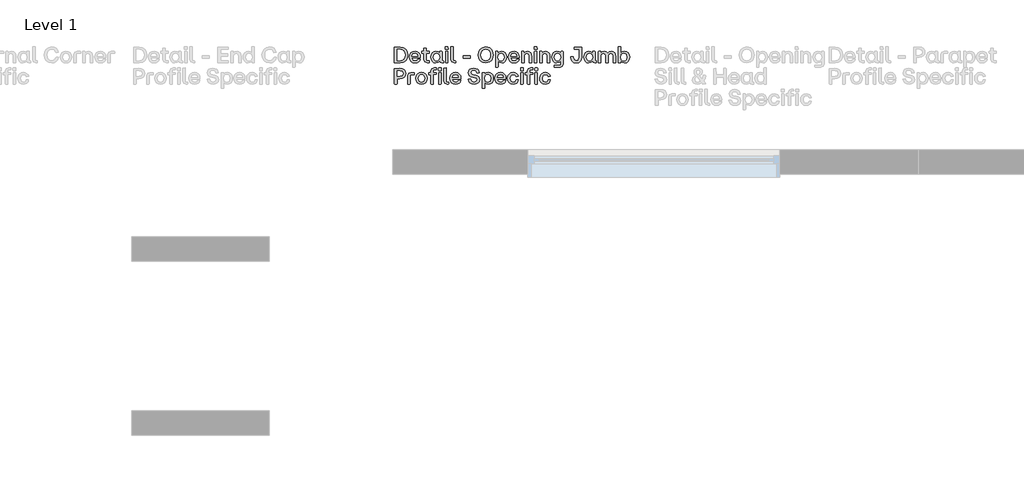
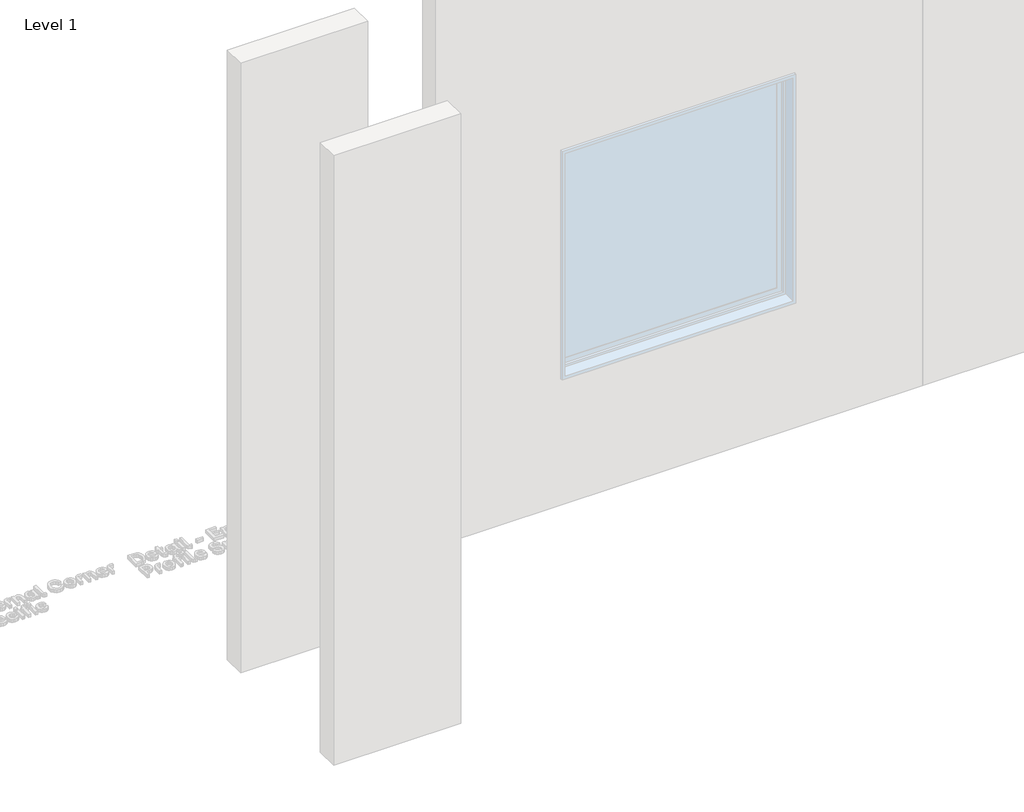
# One storey, part 37 of 64: 1 proxy.
"""IFC4 building model written with IfcOpenShell, lengths in millimetres."""

from ifc_helpers import new_model, si_unit, origin, origin_with_axes, place, context, project, spatial, polyline, outline, extrude, element, save

model = new_model("IFC4")

# Units and contexts
model_context = context("Model", 3, world=origin())
ifc_project = project(units=[si_unit("LENGTHUNIT", "METRE", prefix="MILLI")], contexts=[model_context])

# Site, building, storey
site = spatial("IfcSite", under=ifc_project)
building = spatial("IfcBuilding", under=site)
storey = spatial("IfcBuildingStorey", under=building, Name="Level 1", Elevation=0.0)

# Proxy
placement = place(None, origin())
element("IfcBuildingElementProxy", 1, Name="90mm", ObjectType="90mm", at=placement, inside=storey, context=model_context, shape_type="SweptSolid", body=[
    extrude(outline(polyline([(13610.2926176, -6500.0), (13608.9872124, -6498.7448027), (13608.9872124, -6411.3077612), (13642.5511873, -6410.002356), (13660.5475781, -6413.0054155), (13674.1193986, -6422.0145938), (13682.63905, -6436.3583606), (13685.4789338, -6455.3651852), (13682.648464, -6474.2025582), (13674.1570545, -6488.2890095), (13660.594648, -6497.0722524), (13642.5511873, -6500.0), (13610.2926176, -6500.0)]), holes=[polyline([(13623.7985402, -6487.3727155), (13641.6725492, -6487.3727155), (13653.8950326, -6485.311054), (13662.9481429, -6479.1260695), (13668.5494607, -6469.0625254), (13670.4165666, -6455.3651852), (13668.5431847, -6441.5109454), (13662.923039, -6431.1775339), (13653.8636527, -6424.7477859), (13641.6725492, -6422.6045366), (13623.7985402, -6422.6045366), (13623.7985402, -6487.3727155)])]), origin_with_axes(), (0.0, 0.0, 1.0), 20.0),
    extrude(outline(polyline([(13727.628458, -6500.7531184), (13714.0409476, -6498.4843493), (13703.5035666, -6491.6780421), (13696.7443293, -6481.0622112), (13694.4912502, -6467.3648711), (13696.7349153, -6453.5012173), (13703.4659107, -6442.7881086), (13713.9938777, -6435.9347315), (13727.628458, -6433.6502725), (13740.1584647, -6435.9033516), (13749.7324819, -6442.6625889), (13755.8044987, -6453.3129377), (13757.8285043, -6467.2393514), (13757.8285043, -6470.6785919), (13756.573307, -6472.009101), (13709.1268503, -6472.009101), (13714.6497183, -6484.6865934), (13727.628458, -6489.2053035), (13738.0465953, -6486.9082925), (13743.4439436, -6480.4691305), (13744.8246606, -6479.4147648), (13756.1967478, -6479.4147648), (13754.1633282, -6488.7314665), (13747.8120301, -6495.1925945), (13738.8248176, -6499.3629874), (13727.628458, -6500.7531184)]), holes=[polyline([(13709.2523701, -6461.5909637), (13743.8205028, -6461.5909637), (13739.0633051, -6449.6289337), (13727.628458, -6445.2733992), (13714.8631018, -6449.4155502), (13709.2523701, -6461.5909637)])]), origin_with_axes(), (0.0, 0.0, 1.0), 20.0),
    extrude(outline(polyline([(13796.6140998, -6500.0), (13782.731618, -6495.2302504), (13777.9618684, -6481.3477686), (13777.9618684, -6445.7754781), (13766.7906127, -6445.7754781), (13765.4852076, -6435.7339), (13766.7906127, -6434.4787027), (13777.9618684, -6434.4787027), (13777.9618684, -6416.45407), (13779.2170657, -6415.1486648), (13790.9657121, -6415.1486648), (13792.2209094, -6416.45407), (13792.2209094, -6434.4787027), (13808.0363949, -6434.4787027), (13809.3418001, -6435.7339), (13809.3418001, -6444.444969), (13792.2209094, -6445.7754781), (13792.2209094, -6488.7032246), (13808.0363949, -6488.7032246), (13809.3418001, -6489.9584219), (13809.3418001, -6498.7448027), (13808.0363949, -6500.0), (13796.6140998, -6500.0)])), origin_with_axes(), (0.0, 0.0, 1.0), 20.0),
    extrude(outline(polyline([(13847.2738615, -6500.7531184), (13835.3243835, -6498.4843493), (13826.0861316, -6491.6780421), (13820.1741525, -6481.0622112), (13818.2034928, -6467.3648711), (13820.1741525, -6453.5325972), (13826.0861316, -6442.8132125), (13835.3243835, -6435.9410075), (13847.2738615, -6433.6502725), (13859.1856835, -6436.5372262), (13868.160344, -6444.444969), (13868.7377347, -6435.7339), (13869.992932, -6434.4787027), (13881.6662665, -6434.4787027), (13882.9716717, -6435.7339), (13882.9716717, -6488.7032246), (13890.0760882, -6488.7032246), (13891.3312855, -6489.9584219), (13891.3312855, -6498.7448027), (13890.0760882, -6500.0), (13880.536589, -6500.0), (13872.1581473, -6497.6465051), (13869.3653333, -6490.5860205), (13859.7254183, -6497.8661646), (13847.2738615, -6500.7531184)]), holes=[polyline([(13832.7135732, -6467.3648711), (13837.6716024, -6483.3686362), (13843.5365116, -6487.7461367), (13851.2151809, -6489.2053035), (13858.7714684, -6487.7524127), (13864.470064, -6483.3937402), (13869.2398136, -6467.3648711), (13864.4324081, -6451.1728263), (13858.7243985, -6446.748256), (13851.2151809, -6445.2733992), (13843.5365116, -6446.748256), (13837.6716024, -6451.1728263), (13832.7135732, -6467.3648711)])]), origin_with_axes(), (0.0, 0.0, 1.0), 20.0),
    extrude(outline(polyline([(13903.6824266, -6500.0), (13902.3770214, -6498.7448027), (13902.3770214, -6435.7339), (13903.6824266, -6434.4787027), (13915.3557612, -6434.4787027), (13916.6109584, -6435.7339), (13916.6109584, -6498.7448027), (13915.3557612, -6500.0), (13903.6824266, -6500.0)])), origin_with_axes(), (0.0, 0.0, 1.0), 20.0),
    extrude(outline(polyline([(13901.3728636, -6421.8514182), (13901.3728636, -6407.9940404), (13902.6280609, -6406.6635313), (13916.4854387, -6406.6635313), (13917.8159478, -6421.8514182), (13916.4854387, -6423.1066155), (13902.6280609, -6423.1066155), (13901.3728636, -6421.8514182)])), origin_with_axes(), (0.0, 0.0, 1.0), 20.0),
    extrude(outline(polyline([(13951.5305464, -6500.0), (13937.6731686, -6495.2302504), (13932.903419, -6481.3477686), (13932.903419, -6408.7471587), (13945.8821587, -6407.4166496), (13947.137356, -6408.7471587), (13947.137356, -6488.7032246), (13959.1370418, -6488.7032246), (13960.3922391, -6489.9584219), (13960.3922391, -6498.7448027), (13959.1370418, -6500.0), (13951.5305464, -6500.0)])), origin_with_axes(), (0.0, 0.0, 1.0), 20.0),
    extrude(outline(polyline([(14005.1776775, -6472.887739), (14003.9224803, -6471.5572299), (14003.9224803, -6461.5909637), (14005.1776775, -6460.2604546), (14043.7875455, -6460.2604546), (14045.0427427, -6461.5909637), (14045.0427427, -6471.5572299), (14043.7875455, -6472.887739), (14005.1776775, -6472.887739)])), origin_with_axes(), (0.0, 0.0, 1.0), 20.0),
    extrude(outline(polyline([(14133.1575908, -6500.7531184), (14115.6946589, -6497.6465051), (14102.0663545, -6488.3266654), (14093.2831117, -6473.8730689), (14090.355364, -6455.3651852), (14093.2893876, -6436.62509), (14102.0914585, -6421.92673), (14115.7260388, -6412.4186107), (14133.1575908, -6409.2492376), (14155.6883817, -6414.9603852), (14164.302173, -6421.8639702), (14170.6879891, -6431.1524299), (14175.9598176, -6455.3651852), (14170.6879891, -6479.1637254), (14164.302173, -6488.2952855), (14155.6883817, -6495.1047307), (14133.1575908, -6500.7531184)]), holes=[polyline([(14105.4177312, -6455.3651852), (14107.2848372, -6468.9307297), (14112.886155, -6479.352005), (14121.6882258, -6485.9888605), (14133.1575908, -6488.2011457), (14144.6740257, -6485.9951365), (14153.4666826, -6479.3771089), (14159.0397584, -6468.9621096), (14160.8974504, -6455.3651852), (14159.0303445, -6441.4952554), (14153.4290267, -6430.8637346), (14144.6269558, -6424.1044973), (14133.1575908, -6421.8514182), (14121.6882258, -6424.1044973), (14112.886155, -6430.8637346), (14107.2848372, -6441.4952554), (14105.4177312, -6455.3651852)])]), origin_with_axes(), (0.0, 0.0, 1.0), 20.0),
    extrude(outline(polyline([(14191.2732242, -6524.4010349), (14189.9678191, -6523.1458376), (14189.9678191, -6435.7339), (14191.2732242, -6434.4787027), (14202.3189602, -6434.4787027), (14203.5741575, -6435.7339), (14203.5741575, -6444.3194493), (14213.2140725, -6436.5372262), (14225.6656293, -6433.6502725), (14237.6151073, -6435.9253176), (14246.8533592, -6442.7504527), (14252.7653383, -6453.3913875), (14254.735998, -6467.1138316), (14252.7653383, -6480.9210016), (14246.8533592, -6491.6152823), (14237.6151073, -6498.4686593), (14225.6656293, -6500.7531184), (14213.7538073, -6497.8661646), (14204.7791468, -6489.9584219), (14204.2017561, -6523.1458376), (14202.9465588, -6524.4010349), (14191.2732242, -6524.4010349)]), holes=[polyline([(14203.6996772, -6467.1138316), (14208.5070827, -6483.3058764), (14214.2150923, -6487.7304467), (14221.7243099, -6489.2053035), (14229.4029792, -6487.7304467), (14235.2678884, -6483.3058764), (14240.2259176, -6467.1138316), (14235.2678884, -6451.1100665), (14229.4029792, -6446.732566), (14221.7243099, -6445.2733992), (14214.1680224, -6446.723152), (14208.4694268, -6451.0724106), (14203.6996772, -6467.1138316)])]), origin_with_axes(), (0.0, 0.0, 1.0), 20.0),
    extrude(outline(polyline([(14296.3834433, -6500.7531184), (14282.7959329, -6498.4843493), (14272.2585519, -6491.6780421), (14265.4993146, -6481.0622112), (14263.2462355, -6467.3648711), (14265.4899006, -6453.5012173), (14272.2208959, -6442.7881086), (14282.748863, -6435.9347315), (14296.3834433, -6433.6502725), (14308.91345, -6435.9033516), (14318.4874672, -6442.6625889), (14324.559484, -6453.3129377), (14326.5834895, -6467.2393514), (14326.5834895, -6470.6785919), (14325.3282923, -6472.009101), (14277.8818356, -6472.009101), (14283.4047036, -6484.6865934), (14296.3834433, -6489.2053035), (14306.8015806, -6486.9082925), (14312.1989289, -6480.4691305), (14313.5796459, -6479.4147648), (14324.9517331, -6479.4147648), (14322.9183135, -6488.7314665), (14316.5670154, -6495.1925945), (14307.5798029, -6499.3629874), (14296.3834433, -6500.7531184)]), holes=[polyline([(14278.0073553, -6461.5909637), (14312.5754881, -6461.5909637), (14307.8182904, -6449.6289337), (14296.3834433, -6445.2733992), (14283.6180871, -6449.4155502), (14278.0073553, -6461.5909637)])]), origin_with_axes(), (0.0, 0.0, 1.0), 20.0),
    extrude(outline(polyline([(14340.6919068, -6500.0), (14339.3865017, -6498.7448027), (14339.3865017, -6435.7339), (14340.6919068, -6434.4787027), (14351.7376428, -6434.4787027), (14352.99284, -6435.7339), (14352.99284, -6444.444969), (14362.2875758, -6436.3489466), (14374.2056738, -6433.6502725), (14384.1311462, -6435.5330684), (14391.4144284, -6441.1814561), (14395.8860686, -6450.4573639), (14397.3766154, -6463.2227201), (14397.3766154, -6498.7448027), (14396.0461063, -6500.0), (14384.3727717, -6500.0), (14383.0673665, -6498.7448027), (14383.0673665, -6463.2227201), (14379.5528142, -6449.942733), (14368.4443184, -6445.7754781), (14357.2354068, -6450.0054929), (14353.6204387, -6463.2227201), (14353.6204387, -6498.7448027), (14352.3652414, -6500.0), (14340.6919068, -6500.0)])), origin_with_axes(), (0.0, 0.0, 1.0), 20.0),
    extrude(outline(polyline([(14414.5979219, -6500.0), (14413.2925167, -6498.7448027), (14413.2925167, -6435.7339), (14414.5979219, -6434.4787027), (14426.2712564, -6434.4787027), (14427.5264537, -6435.7339), (14427.5264537, -6498.7448027), (14426.2712564, -6500.0), (14414.5979219, -6500.0)])), origin_with_axes(), (0.0, 0.0, 1.0), 20.0),
    extrude(outline(polyline([(14412.2883589, -6421.8514182), (14412.2883589, -6407.9940404), (14413.5435562, -6406.6635313), (14427.400934, -6406.6635313), (14428.7314431, -6421.8514182), (14427.400934, -6423.1066155), (14413.5435562, -6423.1066155), (14412.2883589, -6421.8514182)])), origin_with_axes(), (0.0, 0.0, 1.0), 20.0),
    extrude(outline(polyline([(14445.1243194, -6500.0), (14443.8189142, -6498.7448027), (14443.8189142, -6435.7339), (14445.1243194, -6434.4787027), (14456.1700553, -6434.4787027), (14457.4252526, -6435.7339), (14457.4252526, -6444.444969), (14466.7199883, -6436.3489466), (14478.6380864, -6433.6502725), (14488.5635588, -6435.5330684), (14495.8468409, -6441.1814561), (14500.3184812, -6450.4573639), (14501.8090279, -6463.2227201), (14501.8090279, -6498.7448027), (14500.4785188, -6500.0), (14488.8051842, -6500.0), (14487.4997791, -6498.7448027), (14487.4997791, -6463.2227201), (14483.9852267, -6449.942733), (14472.8767309, -6445.7754781), (14461.6678193, -6450.0054929), (14458.0528512, -6463.2227201), (14458.0528512, -6498.7448027), (14456.797654, -6500.0), (14445.1243194, -6500.0)])), origin_with_axes(), (0.0, 0.0, 1.0), 20.0),
    extrude(outline(polyline([(14527.5154679, -6524.4010349), (14526.1849588, -6523.1458376), (14526.1849588, -6514.3594567), (14527.5154679, -6513.1042595), (14564.4182676, -6513.1042595), (14564.4182676, -6489.9584219), (14554.8662164, -6497.8661646), (14542.9543943, -6500.7531184), (14531.0049163, -6498.4686593), (14521.7666645, -6491.6152823), (14515.8546853, -6480.9210016), (14513.8840256, -6467.1138316), (14515.8546853, -6453.3913875), (14521.7666645, -6442.7504527), (14531.0049163, -6435.9253176), (14542.9543943, -6433.6502725), (14555.4059512, -6436.5372262), (14564.5437873, -6444.3194493), (14565.0458662, -6435.7339), (14566.3010635, -6434.4787027), (14577.3467994, -6434.4787027), (14578.6522046, -6435.7339), (14578.6522046, -6506.4015061), (14574.0079747, -6519.7944609), (14560.6526758, -6524.4010349), (14527.5154679, -6524.4010349)]), holes=[polyline([(14528.394106, -6467.1138316), (14533.3521352, -6483.3058764), (14539.2170444, -6487.7304467), (14546.8957137, -6489.2053035), (14554.4049314, -6487.7304467), (14560.1129409, -6483.3058764), (14564.9203465, -6467.1138316), (14560.1505969, -6451.0724106), (14554.4520013, -6446.723152), (14546.8957137, -6445.2733992), (14539.2170444, -6446.732566), (14533.3521352, -6451.1100665), (14528.394106, -6467.1138316)])]), origin_with_axes(), (0.0, 0.0, 1.0), 20.0),
    extrude(outline(polyline([(14677.4111255, -6492.3432967), (14667.517033, -6498.6506629), (14653.8008649, -6500.7531184), (14640.0784208, -6498.6569389), (14630.1655004, -6492.3684006), (14624.1593814, -6481.9879192), (14622.1573418, -6467.6159105), (14623.4125391, -6466.1598817), (14635.6632644, -6466.1598817), (14636.9184617, -6467.4903908), (14641.0229567, -6483.2054606), (14653.7883129, -6488.2011457), (14661.3038066, -6486.9459484), (14666.5285652, -6483.1803566), (14670.6079563, -6467.3648711), (14670.6079563, -6422.6045366), (14643.3701756, -6422.6045366), (14642.0647705, -6421.3493393), (14642.0647705, -6411.3077612), (14684.1138789, -6410.002356), (14685.419284, -6467.3648711), (14683.4172444, -6481.8937794), (14677.4111255, -6492.3432967)])), origin_with_axes(), (0.0, 0.0, 1.0), 20.0),
    extrude(outline(polyline([(14726.1127794, -6500.7531184), (14714.1633014, -6498.4843493), (14704.9250495, -6491.6780421), (14699.0130704, -6481.0622112), (14697.0424107, -6467.3648711), (14699.0130704, -6453.5325972), (14704.9250495, -6442.8132125), (14714.1633014, -6435.9410075), (14726.1127794, -6433.6502725), (14738.0246015, -6436.5372262), (14746.9992619, -6444.444969), (14747.5766527, -6435.7339), (14748.8318499, -6434.4787027), (14760.5051845, -6434.4787027), (14761.8105897, -6435.7339), (14761.8105897, -6488.7032246), (14768.9150062, -6488.7032246), (14770.1702034, -6489.9584219), (14770.1702034, -6498.7448027), (14768.9150062, -6500.0), (14759.375507, -6500.0), (14750.9970652, -6497.6465051), (14748.2042513, -6490.5860205), (14738.5643363, -6497.8661646), (14726.1127794, -6500.7531184)]), holes=[polyline([(14711.5524911, -6467.3648711), (14716.5105203, -6483.3686362), (14722.3754295, -6487.7461367), (14730.0540988, -6489.2053035), (14737.6103864, -6487.7524127), (14743.3089819, -6483.3937402), (14748.0787316, -6467.3648711), (14743.271326, -6451.1728263), (14737.5633165, -6446.748256), (14730.0540988, -6445.2733992), (14722.3754295, -6446.748256), (14716.5105203, -6451.1728263), (14711.5524911, -6467.3648711)])]), origin_with_axes(), (0.0, 0.0, 1.0), 20.0),
    extrude(outline(polyline([(14782.5213445, -6500.0), (14781.2159394, -6498.7448027), (14781.2159394, -6435.7339), (14782.5213445, -6434.4787027), (14793.5670805, -6434.4787027), (14794.8222778, -6435.7339), (14794.8222778, -6444.444969), (14803.7969382, -6436.3489466), (14815.4075129, -6433.6502725), (14826.7231163, -6436.3489466), (14834.3107838, -6444.444969), (14844.7916809, -6436.4493624), (14857.8331805, -6433.6502725), (14867.4668195, -6435.5267924), (14874.5273042, -6441.1563522), (14878.8577347, -6450.425984), (14880.3012116, -6463.2227201), (14880.3012116, -6498.7448027), (14879.0460143, -6500.0), (14867.3224719, -6500.0), (14866.0672746, -6498.7448027), (14866.0672746, -6463.2227201), (14862.678242, -6449.942733), (14851.9337534, -6445.7754781), (14841.3022325, -6450.0054929), (14837.875544, -6463.2227201), (14837.875544, -6498.7448027), (14836.6203467, -6500.0), (14824.8968043, -6500.0), (14823.641607, -6498.7448027), (14823.641607, -6463.2227201), (14820.2776783, -6449.942733), (14809.6336055, -6445.7754781), (14798.8765649, -6450.0054929), (14795.4498764, -6463.2227201), (14795.4498764, -6498.7448027), (14794.1946791, -6500.0), (14782.5213445, -6500.0)])), origin_with_axes(), (0.0, 0.0, 1.0), 20.0),
    extrude(outline(polyline([(14930.9860772, -6500.7531184), (14918.5345203, -6497.8661646), (14909.3966842, -6490.0839416), (14908.8946053, -6498.7448027), (14907.639408, -6500.0), (14896.5936721, -6500.0), (14895.2882669, -6498.7448027), (14895.2882669, -6408.7471587), (14908.2670067, -6407.4166496), (14909.5222039, -6408.7471587), (14909.5222039, -6444.444969), (14919.0742551, -6436.5372262), (14930.9860772, -6433.6502725), (14942.9355552, -6435.9410075), (14952.1738071, -6442.8132125), (14958.0857862, -6453.5325972), (14960.0564459, -6467.3648711), (14958.0857862, -6481.0622112), (14952.1738071, -6491.6780421), (14942.9355552, -6498.4843493), (14930.9860772, -6500.7531184)]), holes=[polyline([(14909.020125, -6467.3648711), (14913.7898747, -6483.3937402), (14919.4884702, -6487.7524127), (14927.0447578, -6489.2053035), (14934.7234271, -6487.7461367), (14940.5883363, -6483.3686362), (14945.5463655, -6467.3648711), (14940.5883363, -6451.1728263), (14934.7234271, -6446.748256), (14927.0447578, -6445.2733992), (14919.5355401, -6446.748256), (14913.8275306, -6451.1728263), (14909.020125, -6467.3648711)])]), origin_with_axes(), (0.0, 0.0, 1.0), 20.0),
    extrude(outline(polyline([(13610.2926176, -6622.13305), (13608.9872124, -6620.8778528), (13608.9872124, -6533.4408112), (13640.1161046, -6532.135406), (13654.0174144, -6534.0338919), (13664.3414119, -6539.7293495), (13670.7429179, -6548.9236695), (13672.8767533, -6561.3187425), (13670.7429179, -6573.7138155), (13664.3414119, -6582.9081354), (13654.0174144, -6588.603593), (13640.1161046, -6590.5020789), (13623.7985402, -6590.5020789), (13623.7985402, -6620.8778528), (13622.4680311, -6622.13305), (13610.2926176, -6622.13305)]), holes=[polyline([(13623.7985402, -6577.8747944), (13640.1161046, -6577.8747944), (13653.5969233, -6573.7954033), (13657.9901137, -6561.3061905), (13653.5969233, -6548.8169777), (13640.1161046, -6544.7375866), (13623.7985402, -6544.7375866), (13623.7985402, -6577.8747944)])]), origin_with_axes(), (0.0, 0.0, 1.0), 20.0),
    extrude(outline(polyline([(13686.1065325, -6622.13305), (13684.8513352, -6620.8778528), (13684.8513352, -6575.1886723), (13689.6210848, -6561.3438464), (13703.4784626, -6556.6117527), (13721.7541348, -6556.6117527), (13723.0093321, -6557.86695), (13723.0093321, -6567.4064492), (13721.7541348, -6568.6616465), (13699.0852722, -6568.6616465), (13699.0852722, -6620.8778528), (13697.8300749, -6622.13305), (13686.1065325, -6622.13305)])), origin_with_axes(), (0.0, 0.0, 1.0), 20.0),
    extrude(outline(polyline([(13764.2049064, -6622.8861684), (13750.9782652, -6620.5797434), (13740.519334, -6613.6604685), (13733.7130268, -6603.0069817), (13731.4442577, -6589.4979211), (13733.7193028, -6575.9009967), (13740.5444379, -6565.1345422), (13751.0096451, -6558.1211274), (13764.2049064, -6555.7833225), (13777.5570673, -6558.1211274), (13788.0913103, -6565.1345422), (13794.9352734, -6575.9009967), (13797.2165945, -6589.4979211), (13794.9352734, -6603.0069817), (13788.0913103, -6613.6604685), (13777.5570673, -6620.5797434), (13764.2049064, -6622.8861684)]), holes=[polyline([(13745.9543381, -6589.4979211), (13750.8119515, -6605.5267902), (13756.588997, -6609.8854627), (13764.2049064, -6611.3383535), (13771.9024036, -6609.8791867), (13777.7735888, -6605.5016862), (13782.731618, -6589.4979211), (13777.7986928, -6573.3058764), (13771.9337835, -6568.881306), (13764.2049064, -6567.4064492), (13756.588997, -6568.881306), (13750.8119515, -6573.3058764), (13745.9543381, -6589.4979211)])]), origin_with_axes(), (0.0, 0.0, 1.0), 20.0),
    extrude(outline(polyline([(13819.3833782, -6622.13305), (13818.1281809, -6620.8778528), (13818.1281809, -6567.9085281), (13806.9569253, -6567.9085281), (13805.6515201, -6557.86695), (13806.9569253, -6556.6117527), (13818.1281809, -6556.6117527), (13818.1281809, -6548.201931), (13822.8979305, -6534.3194493), (13836.7804123, -6529.5496997), (13848.2027074, -6529.5496997), (13849.5081126, -6539.5912778), (13832.3872219, -6540.9217869), (13832.3872219, -6556.6117527), (13848.2027074, -6556.6117527), (13849.5081126, -6557.86695), (13849.5081126, -6566.578019), (13832.3872219, -6567.9085281), (13832.3872219, -6620.8778528), (13831.1320246, -6622.13305), (13819.3833782, -6622.13305)])), origin_with_axes(), (0.0, 0.0, 1.0), 20.0),
    extrude(outline(polyline([(13861.3069669, -6543.9844682), (13861.3069669, -6530.1270904), (13862.5621642, -6528.7965813), (13876.4948538, -6528.7965813), (13877.7500511, -6530.1270904), (13877.7500511, -6543.9844682), (13876.4948538, -6545.2396655), (13862.5621642, -6545.2396655), (13861.3069669, -6543.9844682)])), origin_with_axes(), (0.0, 0.0, 1.0), 20.0),
    extrude(outline(polyline([(13862.3111247, -6620.8778528), (13862.3111247, -6557.86695), (13863.6416338, -6556.6117527), (13875.3149684, -6556.6117527), (13876.6203735, -6557.86695), (13876.6203735, -6620.8778528), (13875.3149684, -6622.13305), (13863.6416338, -6622.13305), (13862.3111247, -6620.8778528)])), origin_with_axes(), (0.0, 0.0, 1.0), 20.0),
    extrude(outline(polyline([(13911.3642339, -6622.13305), (13897.506856, -6617.3633004), (13892.7371064, -6603.4808186), (13892.7371064, -6530.8802088), (13905.7158462, -6529.5496997), (13906.9710434, -6530.8802088), (13906.9710434, -6610.8362746), (13918.9707293, -6610.8362746), (13920.2259266, -6612.0914719), (13920.2259266, -6620.8778528), (13918.9707293, -6622.13305), (13911.3642339, -6622.13305)])), origin_with_axes(), (0.0, 0.0, 1.0), 20.0),
    extrude(outline(polyline([(13960.5930707, -6622.8861684), (13947.0055602, -6620.6173993), (13936.4681792, -6613.8110921), (13929.7089419, -6603.1952613), (13927.4558628, -6589.4979211), (13929.6995279, -6575.6342673), (13936.4305233, -6564.9211586), (13946.9584903, -6558.0677815), (13960.5930707, -6555.7833225), (13973.1230774, -6558.0364016), (13982.6970945, -6564.7956389), (13988.7691113, -6575.4459877), (13990.7931169, -6589.3724014), (13990.7931169, -6592.8116419), (13989.5379196, -6594.142151), (13942.0914629, -6594.142151), (13947.6143309, -6606.8196434), (13960.5930707, -6611.3383535), (13971.011208, -6609.0413425), (13976.4085562, -6602.6021806), (13977.7892732, -6601.5478148), (13989.1613604, -6601.5478148), (13987.1279409, -6610.8645166), (13980.7766427, -6617.3256445), (13971.7894303, -6621.4960374), (13960.5930707, -6622.8861684)]), holes=[polyline([(13942.2169827, -6583.7240137), (13976.7851154, -6583.7240137), (13972.0279177, -6571.7619837), (13960.5930707, -6567.4064492), (13947.8277145, -6571.5486002), (13942.2169827, -6583.7240137)])]), origin_with_axes(), (0.0, 0.0, 1.0), 20.0),
    extrude(outline(polyline([(14066.8831752, -6622.8861684), (14053.1136611, -6621.0347524), (14042.4319324, -6615.4805045), (14035.1706162, -6606.5058441), (14031.6623399, -6594.3931904), (14044.917223, -6592.9371616), (14046.2226282, -6594.142151), (14052.4107507, -6606.6941236), (14066.8831752, -6610.5852352), (14079.3974919, -6607.007923), (14083.8785461, -6597.0793126), (14080.7782089, -6588.8326665), (14070.3977275, -6584.7281715), (14058.5235614, -6582.644544), (14047.5186193, -6579.3904451), (14039.6579465, -6574.0715467), (14034.9415427, -6566.6878488), (14033.3694082, -6557.2393514), (14035.3839998, -6546.397585), (14041.4277746, -6538.2231128), (14051.0802416, -6533.0924939), (14063.9209096, -6531.3822877), (14076.6548859, -6533.1144599), (14086.5897722, -6538.3109766), (14093.3803895, -6546.6643144), (14096.6815583, -6557.86695), (14083.501987, -6559.2978749), (14082.0710621, -6557.86695), (14076.2594987, -6547.1601173), (14063.9209096, -6543.7334288), (14052.1597112, -6546.8714219), (14048.1054241, -6556.034362), (14051.7203922, -6564.732879), (14063.0422715, -6569.2892451), (14074.8411258, -6571.3477686), (14085.6609263, -6574.5171417), (14093.0163822, -6579.6069666), (14097.2338451, -6586.9373187), (14098.639666, -6596.8282731), (14096.5277966, -6607.7422134), (14090.1921884, -6615.9825834), (14080.1411963, -6621.1602721), (14066.8831752, -6622.8861684)])), origin_with_axes(), (0.0, 0.0, 1.0), 20.0),
    extrude(outline(polyline([(14114.1539042, -6646.5340849), (14112.848499, -6645.2788876), (14112.848499, -6557.86695), (14114.1539042, -6556.6117527), (14125.1996401, -6556.6117527), (14126.4548374, -6557.86695), (14126.4548374, -6566.4524993), (14136.0947524, -6558.6702762), (14148.5463093, -6555.7833225), (14160.4957873, -6558.0583676), (14169.7340392, -6564.8835027), (14175.6460183, -6575.5244375), (14177.616678, -6589.2468816), (14175.6460183, -6603.0540516), (14169.7340392, -6613.7483323), (14160.4957873, -6620.6017094), (14148.5463093, -6622.8861684), (14136.6344872, -6619.9992147), (14127.6598268, -6612.0914719), (14127.082436, -6645.2788876), (14125.8272388, -6646.5340849), (14114.1539042, -6646.5340849)]), holes=[polyline([(14126.5803571, -6589.2468816), (14131.3877627, -6605.4389264), (14137.0957722, -6609.8634967), (14144.6049899, -6611.3383535), (14152.2836592, -6609.8634967), (14158.1485684, -6605.4389264), (14163.1065976, -6589.2468816), (14158.1485684, -6573.2431165), (14152.2836592, -6568.865616), (14144.6049899, -6567.4064492), (14137.0487023, -6568.856202), (14131.3501068, -6573.2054606), (14126.5803571, -6589.2468816)])]), origin_with_axes(), (0.0, 0.0, 1.0), 20.0),
    extrude(outline(polyline([(14219.2641233, -6622.8861684), (14205.6766129, -6620.6173993), (14195.1392318, -6613.8110921), (14188.3799945, -6603.1952613), (14186.1269155, -6589.4979211), (14188.3705806, -6575.6342673), (14195.1015759, -6564.9211586), (14205.629543, -6558.0677815), (14219.2641233, -6555.7833225), (14231.79413, -6558.0364016), (14241.3681471, -6564.7956389), (14247.4401639, -6575.4459877), (14249.4641695, -6589.3724014), (14249.4641695, -6592.8116419), (14248.2089722, -6594.142151), (14200.7625156, -6594.142151), (14206.2853836, -6606.8196434), (14219.2641233, -6611.3383535), (14229.6822606, -6609.0413425), (14235.0796088, -6602.6021806), (14236.4603258, -6601.5478148), (14247.8324131, -6601.5478148), (14245.7989935, -6610.8645166), (14239.4476953, -6617.3256445), (14230.4604829, -6621.4960374), (14219.2641233, -6622.8861684)]), holes=[polyline([(14200.8880353, -6583.7240137), (14235.456168, -6583.7240137), (14230.6989704, -6571.7619837), (14219.2641233, -6567.4064492), (14206.4987671, -6571.5486002), (14200.8880353, -6583.7240137)])]), origin_with_axes(), (0.0, 0.0, 1.0), 20.0),
    extrude(outline(polyline([(14291.4379661, -6622.8861684), (14277.9445955, -6620.6173993), (14267.4385944, -6613.8110921), (14260.6793571, -6603.1952613), (14258.426278, -6589.4979211), (14260.710737, -6575.9009967), (14267.5641141, -6565.1345422), (14278.1014951, -6558.1211274), (14291.4379661, -6555.7833225), (14302.4209422, -6557.3303532), (14311.3704987, -6561.971445), (14317.6841409, -6569.1543114), (14320.7593742, -6578.3266654), (14308.1320897, -6579.7073824), (14301.7054797, -6570.1678832), (14291.4379661, -6567.4064492), (14283.680847, -6568.881306), (14277.8316277, -6573.3058764), (14272.9363584, -6589.4979211), (14277.8567317, -6605.5644461), (14283.7122269, -6609.8948767), (14291.4379661, -6611.3383535), (14302.019279, -6608.7024393), (14307.3789714, -6600.1670979), (14308.7596884, -6598.9621085), (14320.1317756, -6598.9621085), (14318.12346, -6609.4712476), (14311.7470579, -6616.6980459), (14302.7033616, -6621.3391377), (14291.4379661, -6622.8861684)])), origin_with_axes(), (0.0, 0.0, 1.0), 20.0),
    extrude(outline(polyline([(14335.8719493, -6622.13305), (14334.5665442, -6620.8778528), (14334.5665442, -6557.86695), (14335.8719493, -6556.6117527), (14347.5452839, -6556.6117527), (14348.8004812, -6557.86695), (14348.8004812, -6620.8778528), (14347.5452839, -6622.13305), (14335.8719493, -6622.13305)])), origin_with_axes(), (0.0, 0.0, 1.0), 20.0),
    extrude(outline(polyline([(14333.5623863, -6543.9844682), (14333.5623863, -6530.1270904), (14334.8175836, -6528.7965813), (14348.6749614, -6528.7965813), (14350.0054705, -6543.9844682), (14348.6749614, -6545.2396655), (14334.8175836, -6545.2396655), (14333.5623863, -6543.9844682)])), origin_with_axes(), (0.0, 0.0, 1.0), 20.0),
    extrude(outline(polyline([(14373.678491, -6622.13305), (14372.4232937, -6620.8778528), (14372.4232937, -6567.9085281), (14361.252038, -6567.9085281), (14359.9466329, -6557.86695), (14361.252038, -6556.6117527), (14372.4232937, -6556.6117527), (14372.4232937, -6548.201931), (14377.1930433, -6534.3194493), (14391.0755251, -6529.5496997), (14402.4978202, -6529.5496997), (14403.8032254, -6539.5912778), (14386.6823347, -6540.9217869), (14386.6823347, -6556.6117527), (14402.4978202, -6556.6117527), (14403.8032254, -6557.86695), (14403.8032254, -6566.578019), (14386.6823347, -6567.9085281), (14386.6823347, -6620.8778528), (14385.4271374, -6622.13305), (14373.678491, -6622.13305)])), origin_with_axes(), (0.0, 0.0, 1.0), 20.0),
    extrude(outline(polyline([(14415.6020797, -6543.9844682), (14415.6020797, -6530.1270904), (14416.8572769, -6528.7965813), (14430.7899666, -6528.7965813), (14432.0451639, -6530.1270904), (14432.0451639, -6543.9844682), (14430.7899666, -6545.2396655), (14416.8572769, -6545.2396655), (14415.6020797, -6543.9844682)])), origin_with_axes(), (0.0, 0.0, 1.0), 20.0),
    extrude(outline(polyline([(14416.6062375, -6620.8778528), (14416.6062375, -6557.86695), (14417.9367466, -6556.6117527), (14429.6100812, -6556.6117527), (14430.9154863, -6557.86695), (14430.9154863, -6620.8778528), (14429.6100812, -6622.13305), (14417.9367466, -6622.13305), (14416.6062375, -6620.8778528)])), origin_with_axes(), (0.0, 0.0, 1.0), 20.0),
    extrude(outline(polyline([(14476.2030037, -6622.8861684), (14462.7096331, -6620.6173993), (14452.203632, -6613.8110921), (14445.4443947, -6603.1952613), (14443.1913156, -6589.4979211), (14445.4757746, -6575.9009967), (14452.3291517, -6565.1345422), (14462.8665327, -6558.1211274), (14476.2030037, -6555.7833225), (14487.1859798, -6557.3303532), (14496.1355363, -6561.971445), (14502.4491785, -6569.1543114), (14505.5244118, -6578.3266654), (14492.8971273, -6579.7073824), (14486.4705173, -6570.1678832), (14476.2030037, -6567.4064492), (14468.4458846, -6568.881306), (14462.5966653, -6573.3058764), (14457.701396, -6589.4979211), (14462.6217693, -6605.5644461), (14468.4772645, -6609.8948767), (14476.2030037, -6611.3383535), (14486.7843166, -6608.7024393), (14492.144009, -6600.1670979), (14493.524726, -6598.9621085), (14504.8968132, -6598.9621085), (14502.8884976, -6609.4712476), (14496.5120955, -6616.6980459), (14487.4683992, -6621.3391377), (14476.2030037, -6622.8861684)])), origin_with_axes(), (0.0, 0.0, 1.0), 20.0),
])

save(model, "model.ifc")
